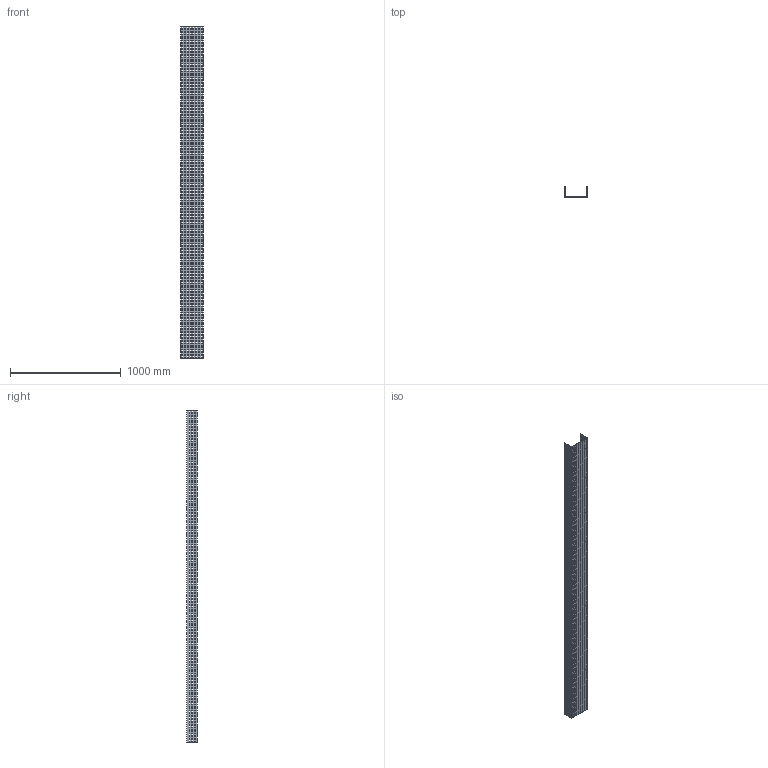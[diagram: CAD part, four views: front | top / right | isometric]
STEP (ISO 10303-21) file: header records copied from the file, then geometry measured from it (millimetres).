
FILE_DESCRIPTION (( 'STEP AP214' ), '1' );
FILE_NAME ('01B3I200.step', '2025-02-21T10:23:41', ( '' ), ( '' ), 'SwSTEP 2.0', 'SolidWorks 2023', '' );
FILE_SCHEMA (( 'AUTOMOTIVE_DESIGN' ));
Products named in the file (1): 01B3I200
Bounding box: 204 x 92.5 x 3000 mm (x, y, z)
Volume: 3393600 mm3; surface area: 2188666 mm2
Topology: 1 solids, 1 shells, 4042 faces, 12120 edges, 8080 vertices
Faces by surface type: plane 4042
Entity records: 137399 total; most frequent: CARTESIAN_POINT 24243, ORIENTED_EDGE 24240, DIRECTION 20206, EDGE_CURVE 12120, VECTOR 12120, LINE 12120, VERTEX_POINT 8080, EDGE_LOOP 6058
